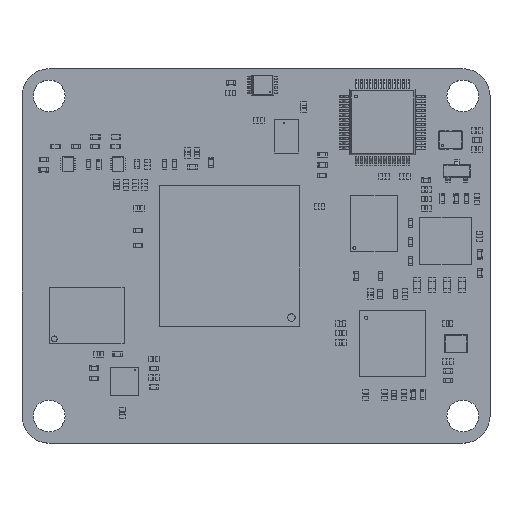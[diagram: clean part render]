
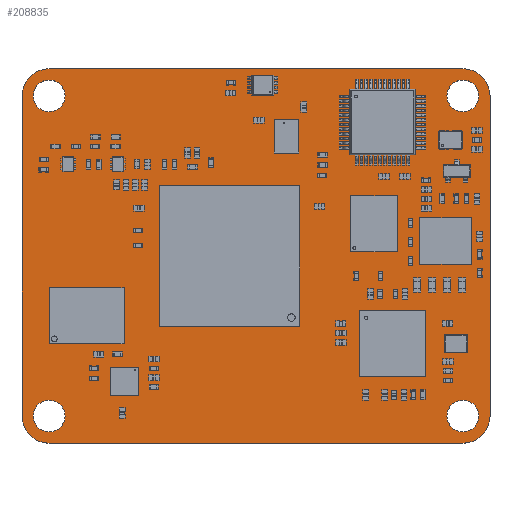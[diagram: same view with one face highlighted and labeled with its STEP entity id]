
A CAD part, top view. The second image highlights one B-rep face of the part: STEP entity #208835.
In plain terms, the highlighted planar face has unit normal (0, 0, 1).
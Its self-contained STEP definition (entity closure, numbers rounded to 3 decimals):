
#208642 = VERTEX_POINT('',#208643);
#208643 = CARTESIAN_POINT('',(22.1,20.,1.51));
#208649 = EDGE_CURVE('',#208642,#208650,#208652,.T.);
#208650 = VERTEX_POINT('',#208651);
#208651 = CARTESIAN_POINT('',(25.,17.1,1.51));
#208652 = CIRCLE('',#208653,2.9);
#208653 = AXIS2_PLACEMENT_3D('',#208654,#208655,#208656);
#208654 = CARTESIAN_POINT('',(22.1,17.1,1.51));
#208655 = DIRECTION('',(0.,0.,-1.));
#208656 = DIRECTION('',(0.,1.,0.));
#208684 = VERTEX_POINT('',#208685);
#208685 = CARTESIAN_POINT('',(-22.1,20.,1.51));
#208691 = EDGE_CURVE('',#208684,#208642,#208692,.T.);
#208692 = LINE('',#208693,#208694);
#208693 = CARTESIAN_POINT('',(-22.1,20.,1.51));
#208694 = VECTOR('',#208695,1.);
#208695 = DIRECTION('',(1.,0.,0.));
#208713 = EDGE_CURVE('',#208650,#208714,#208716,.T.);
#208714 = VERTEX_POINT('',#208715);
#208715 = CARTESIAN_POINT('',(25.,-17.1,1.51));
#208716 = LINE('',#208717,#208718);
#208717 = CARTESIAN_POINT('',(25.,17.1,1.51));
#208718 = VECTOR('',#208719,1.);
#208719 = DIRECTION('',(0.,-1.,0.));
#208835 = ADVANCED_FACE('',(#208836,#208882,#208893,#208904,#208915),
  #208926,.T.);
#208836 = FACE_BOUND('',#208837,.T.);
#208837 = EDGE_LOOP('',(#208838,#208839,#208840,#208849,#208857,#208866,
    #208874,#208881));
#208838 = ORIENTED_EDGE('',*,*,#208649,.F.);
#208839 = ORIENTED_EDGE('',*,*,#208691,.F.);
#208840 = ORIENTED_EDGE('',*,*,#208841,.F.);
#208841 = EDGE_CURVE('',#208842,#208684,#208844,.T.);
#208842 = VERTEX_POINT('',#208843);
#208843 = CARTESIAN_POINT('',(-25.,17.1,1.51));
#208844 = CIRCLE('',#208845,2.9);
#208845 = AXIS2_PLACEMENT_3D('',#208846,#208847,#208848);
#208846 = CARTESIAN_POINT('',(-22.1,17.1,1.51));
#208847 = DIRECTION('',(0.,0.,-1.));
#208848 = DIRECTION('',(-1.,0.,-0.));
#208849 = ORIENTED_EDGE('',*,*,#208850,.F.);
#208850 = EDGE_CURVE('',#208851,#208842,#208853,.T.);
#208851 = VERTEX_POINT('',#208852);
#208852 = CARTESIAN_POINT('',(-25.,-17.1,1.51));
#208853 = LINE('',#208854,#208855);
#208854 = CARTESIAN_POINT('',(-25.,-17.1,1.51));
#208855 = VECTOR('',#208856,1.);
#208856 = DIRECTION('',(0.,1.,0.));
#208857 = ORIENTED_EDGE('',*,*,#208858,.F.);
#208858 = EDGE_CURVE('',#208859,#208851,#208861,.T.);
#208859 = VERTEX_POINT('',#208860);
#208860 = CARTESIAN_POINT('',(-22.1,-20.,1.51));
#208861 = CIRCLE('',#208862,2.9);
#208862 = AXIS2_PLACEMENT_3D('',#208863,#208864,#208865);
#208863 = CARTESIAN_POINT('',(-22.1,-17.1,1.51));
#208864 = DIRECTION('',(0.,0.,-1.));
#208865 = DIRECTION('',(0.,-1.,0.));
#208866 = ORIENTED_EDGE('',*,*,#208867,.F.);
#208867 = EDGE_CURVE('',#208868,#208859,#208870,.T.);
#208868 = VERTEX_POINT('',#208869);
#208869 = CARTESIAN_POINT('',(22.1,-20.,1.51));
#208870 = LINE('',#208871,#208872);
#208871 = CARTESIAN_POINT('',(22.1,-20.,1.51));
#208872 = VECTOR('',#208873,1.);
#208873 = DIRECTION('',(-1.,0.,0.));
#208874 = ORIENTED_EDGE('',*,*,#208875,.F.);
#208875 = EDGE_CURVE('',#208714,#208868,#208876,.T.);
#208876 = CIRCLE('',#208877,2.9);
#208877 = AXIS2_PLACEMENT_3D('',#208878,#208879,#208880);
#208878 = CARTESIAN_POINT('',(22.1,-17.1,1.51));
#208879 = DIRECTION('',(0.,0.,-1.));
#208880 = DIRECTION('',(1.,0.,0.));
#208881 = ORIENTED_EDGE('',*,*,#208713,.F.);
#208882 = FACE_BOUND('',#208883,.T.);
#208883 = EDGE_LOOP('',(#208884));
#208884 = ORIENTED_EDGE('',*,*,#208885,.T.);
#208885 = EDGE_CURVE('',#208886,#208886,#208888,.T.);
#208886 = VERTEX_POINT('',#208887);
#208887 = CARTESIAN_POINT('',(-22.1,-18.8,1.51));
#208888 = CIRCLE('',#208889,1.7);
#208889 = AXIS2_PLACEMENT_3D('',#208890,#208891,#208892);
#208890 = CARTESIAN_POINT('',(-22.1,-17.1,1.51));
#208891 = DIRECTION('',(-0.,0.,-1.));
#208892 = DIRECTION('',(-0.,-1.,0.));
#208893 = FACE_BOUND('',#208894,.T.);
#208894 = EDGE_LOOP('',(#208895));
#208895 = ORIENTED_EDGE('',*,*,#208896,.T.);
#208896 = EDGE_CURVE('',#208897,#208897,#208899,.T.);
#208897 = VERTEX_POINT('',#208898);
#208898 = CARTESIAN_POINT('',(22.1,-18.8,1.51));
#208899 = CIRCLE('',#208900,1.7);
#208900 = AXIS2_PLACEMENT_3D('',#208901,#208902,#208903);
#208901 = CARTESIAN_POINT('',(22.1,-17.1,1.51));
#208902 = DIRECTION('',(-0.,0.,-1.));
#208903 = DIRECTION('',(-0.,-1.,0.));
#208904 = FACE_BOUND('',#208905,.T.);
#208905 = EDGE_LOOP('',(#208906));
#208906 = ORIENTED_EDGE('',*,*,#208907,.T.);
#208907 = EDGE_CURVE('',#208908,#208908,#208910,.T.);
#208908 = VERTEX_POINT('',#208909);
#208909 = CARTESIAN_POINT('',(-22.1,15.4,1.51));
#208910 = CIRCLE('',#208911,1.7);
#208911 = AXIS2_PLACEMENT_3D('',#208912,#208913,#208914);
#208912 = CARTESIAN_POINT('',(-22.1,17.1,1.51));
#208913 = DIRECTION('',(-0.,0.,-1.));
#208914 = DIRECTION('',(-0.,-1.,0.));
#208915 = FACE_BOUND('',#208916,.T.);
#208916 = EDGE_LOOP('',(#208917));
#208917 = ORIENTED_EDGE('',*,*,#208918,.T.);
#208918 = EDGE_CURVE('',#208919,#208919,#208921,.T.);
#208919 = VERTEX_POINT('',#208920);
#208920 = CARTESIAN_POINT('',(22.1,15.4,1.51));
#208921 = CIRCLE('',#208922,1.7);
#208922 = AXIS2_PLACEMENT_3D('',#208923,#208924,#208925);
#208923 = CARTESIAN_POINT('',(22.1,17.1,1.51));
#208924 = DIRECTION('',(-0.,0.,-1.));
#208925 = DIRECTION('',(-0.,-1.,0.));
#208926 = PLANE('',#208927);
#208927 = AXIS2_PLACEMENT_3D('',#208928,#208929,#208930);
#208928 = CARTESIAN_POINT('',(0.,0.,1.51));
#208929 = DIRECTION('',(0.,0.,1.));
#208930 = DIRECTION('',(1.,0.,-0.));
